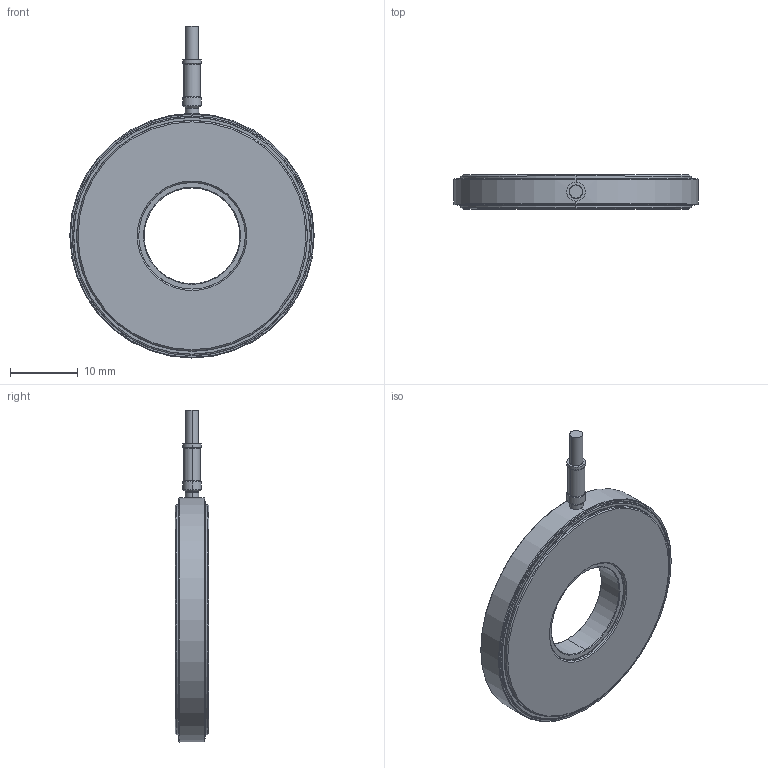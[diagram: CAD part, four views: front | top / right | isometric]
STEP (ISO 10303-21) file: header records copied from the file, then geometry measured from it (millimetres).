
FILE_DESCRIPTION((''),'2;1');
FILE_NAME('CSW-08KN','2018-06-13T',('esche'),(''),'CREO PARAMETRIC BY PTC INC, 2017170','CREO PARAMETRIC BY PTC INC, 2017170','');
FILE_SCHEMA(('CONFIG_CONTROL_DESIGN'));
Length unit declared in the file: millimetre
Products named in the file (1): CSW-08KN
Bounding box: 36 x 5 x 48.9 mm (x, y, z)
Surface area: 2573.5 mm2 (no closed solid volume)
Topology: 0 solids, 4 shells, 81 faces, 237 edges, 166 vertices
Faces by surface type: bspline 81
Entity records: 4492 total; most frequent: CARTESIAN_POINT 2343, ORIENTED_EDGE 454, DIRECTION 409, EDGE_CURVE 237, AXIS2_PLACEMENT_3D 178, CIRCLE 178, VERTEX_POINT 166, EDGE_LOOP 90
